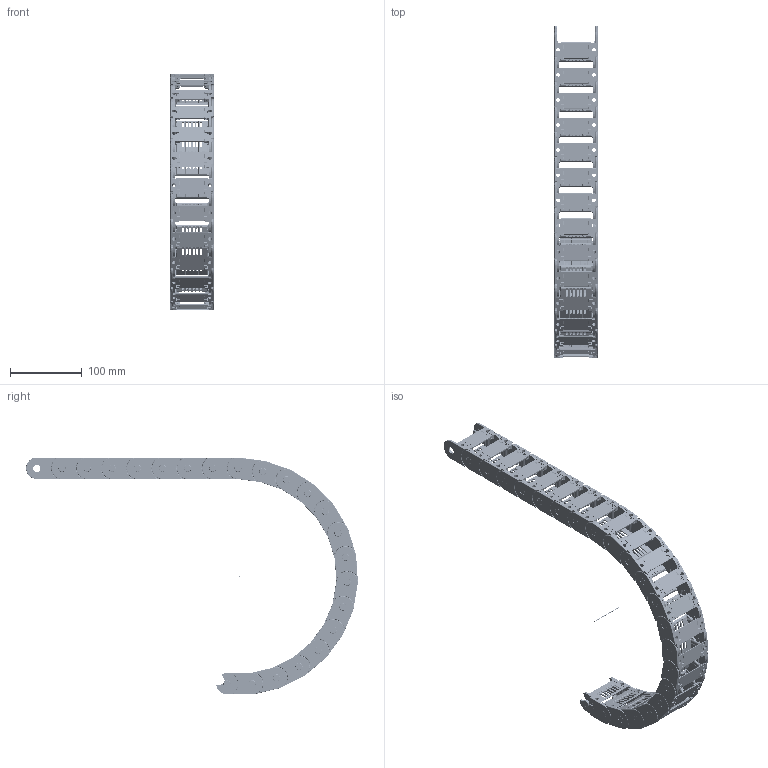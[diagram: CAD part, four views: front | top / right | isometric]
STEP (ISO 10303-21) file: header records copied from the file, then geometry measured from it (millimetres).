
FILE_DESCRIPTION((''),'2;1');
FILE_NAME('C:\Uebbing\PARAMETERKETTEN\KOLIBRI\Kol_30_060_1\KOLIBRI 30_060_1_R150.stp','2012-03-05T09:18:12',('Uebbing'),(''),'Autodesk Inventor 10','Autodesk Inventor 10','');
FILE_SCHEMA(('AUTOMOTIVE_DESIGN { 1 0 10303 214 1 1 1 1 }'));
Length unit declared in the file: millimetre
Products named in the file (5): KOLIBRI 30_060_1_PARAMETRISCH; Achse; Kolibri 30_060_1 Glied; Kol 30_060_1 Lasche; Kol 30_060_0 Klappsteg
Assembly tree (25 placements, depth 3):
  KOLIBRI 30_060_1_PARAMETRISCH
    Achse
    Kolibri 30_060_1 Glied  x22
      Kol 30_060_1 Lasche
      Kol 30_060_0 Klappsteg
Bounding box: 60 x 462.02 x 330 mm (x, y, z)
Volume: 346847.4 mm3; surface area: 330896.2 mm2
Topology: 45 solids, 45 shells, 15755 faces, 43850 edges, 28537 vertices
Faces by surface type: plane 6624, bspline 5302, cylinder 3125, torus 506, cone 132, sphere 66
Full cylindrical faces by diameter (mm): 1 x1, 1.166 x22, 2.048 x22, 2.8 x132, 5.1 x22, 10 x22, 10.1 x22
Entity records: 26379 total; most frequent: CARTESIAN_POINT 8640, ORIENTED_EDGE 3906, DIRECTION 3275, EDGE_CURVE 1953, VERTEX_POINT 1286, VECTOR 1211, LINE 1211, AXIS2_PLACEMENT_3D 1032
